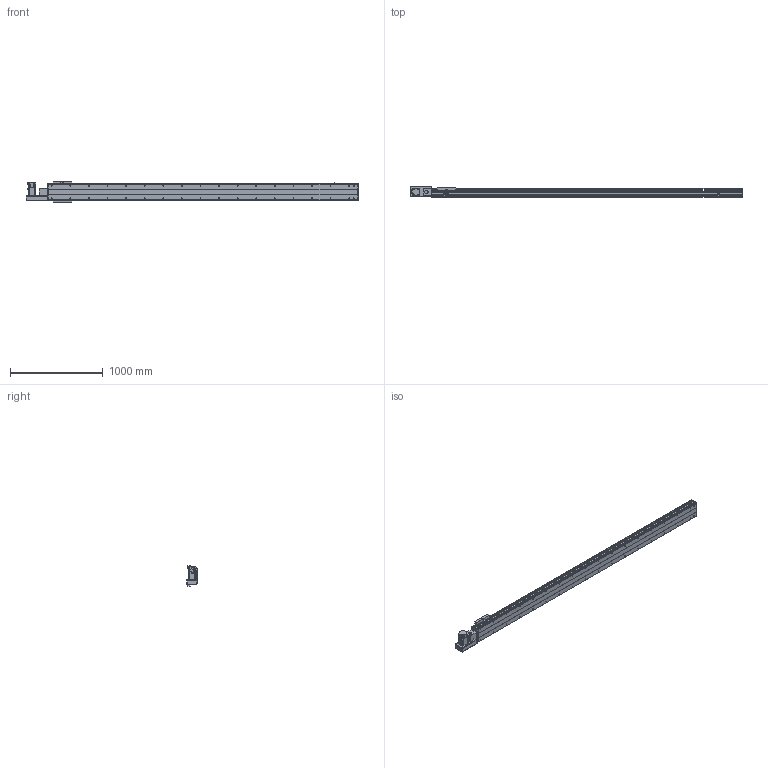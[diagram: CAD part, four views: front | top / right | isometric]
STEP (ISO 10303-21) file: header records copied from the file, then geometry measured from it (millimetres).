
FILE_DESCRIPTION(/* description */ ('STEP AP214'),/* implementation_level */ '2;1');
FILE_NAME(/* name */ 'PBS200-P40-S2950-L-T75-C1-N(0)',/* time_stamp */ '2022-06-11T07:51:27+02:00',/* author */ ('License CC BY-ND 4.0'),/* organization */ ('CADENAS'),/* preprocessor_version */ 'ST-DEVELOPER v18.102',/* originating_system */ 'PARTsolutions',/* authorisation */ ' ');
FILE_SCHEMA (('AUTOMOTIVE_DESIGN {1 0 10303 214 3 1 1}'));
Length unit declared in the file: millimetre
Products named in the file (7): PBS200-P40-S2950-L-T75-C1-N(0); PBS200_sensor; PBS200_plant; PBS200_sliser; T75-p1; PBS200T-L_motors; PBS200-S2950()_body
Assembly tree (8 placements, depth 2):
  PBS200-P40-S2950-L-T75-C1-N(0)
    PBS200_sensor  x3
    PBS200_plant
    PBS200_sliser
    T75-p1
    PBS200T-L_motors
    PBS200-S2950()_body
Bounding box: 3572 x 109 x 221 mm (x, y, z)
Volume: 23413517.1 mm3; surface area: 3739618.7 mm2
Topology: 8 solids, 8 shells, 980 faces, 2474 edges, 1608 vertices
Faces by surface type: plane 594, cylinder 318, cone 68
Full cylindrical faces by diameter (mm): 2.459 x6, 3.242 x4, 4.5 x6, 4.917 x4, 5 x6, 6 x7, 6.6 x8, 6.647 x40, 8 x6, 10 x4, 12 x8, 38 x2, 40 x1, 70 x1
Entity records: 25781 total; most frequent: DIRECTION 4567, CARTESIAN_POINT 4372, ORIENTED_EDGE 4102, EDGE_CURVE 2051, AXIS2_PLACEMENT_3D 1627, VERTEX_POINT 1432, LINE 1313, VECTOR 1313
